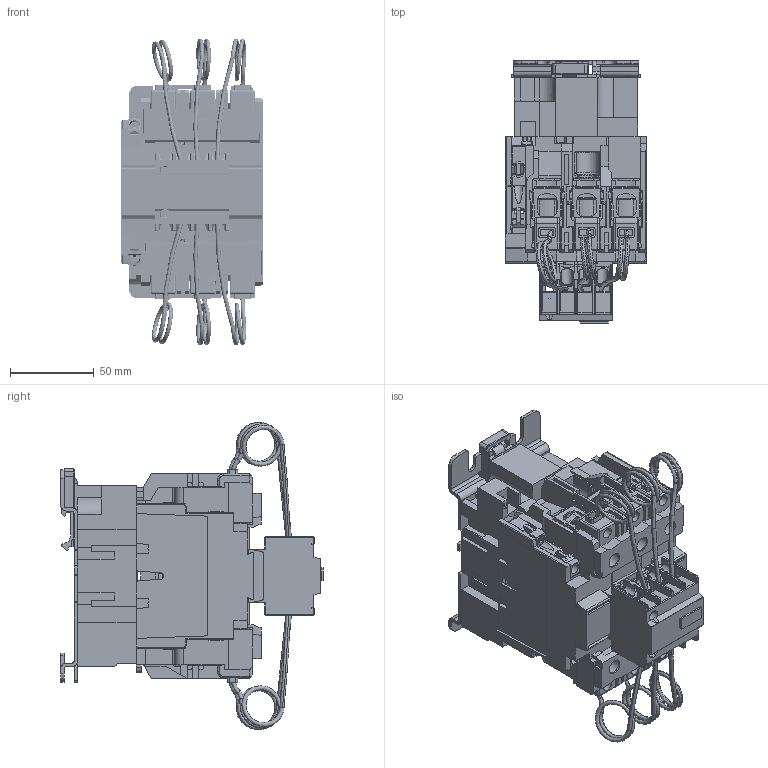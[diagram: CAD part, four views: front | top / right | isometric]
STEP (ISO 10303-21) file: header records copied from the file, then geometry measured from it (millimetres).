
FILE_DESCRIPTION((''),'2;1');
FILE_NAME('ENT-KT-60_ASM','2022-12-19T16:20:30',('vikas.gupta'),(''),'CREO PARAMETRIC BY PTC INC, 2020281','CREO PARAMETRIC BY PTC INC, 2020281','');
FILE_SCHEMA(('CONFIG_CONTROL_DESIGN','SHAPE_APPEARANCE_LAYERS_GROUPS'));
Products named in the file (5): ENT-KT-60_1_1; ENT-KT-60_1_2; ENT-KT-60_1_3; ENT-KT-60_1_ASM; ENT-KT-60_ASM
Assembly tree (4 placements, depth 3):
  ENT-KT-60_ASM
    ENT-KT-60_1_ASM
      ENT-KT-60_1_1
      ENT-KT-60_1_2
      ENT-KT-60_1_3
Bounding box: 84.5 x 156.75 x 183.31 mm (x, y, z)
Volume: 407898.9 mm3; surface area: 304232.7 mm2
Topology: 3 solids, 9 shells, 6926 faces, 20839 edges, 13600 vertices
Faces by surface type: plane 5214, cylinder 1419, torus 167, bspline 54, cone 40, sphere 32
Entity records: 301018 total; most frequent: CARTESIAN_POINT 49354, ORIENTED_EDGE 41608, DIRECTION 37024, PRESENTATION_STYLE_ASSIGNMENT 20807, STYLED_ITEM 20807, CURVE_STYLE 20804, EDGE_CURVE 20804, VECTOR 16762
